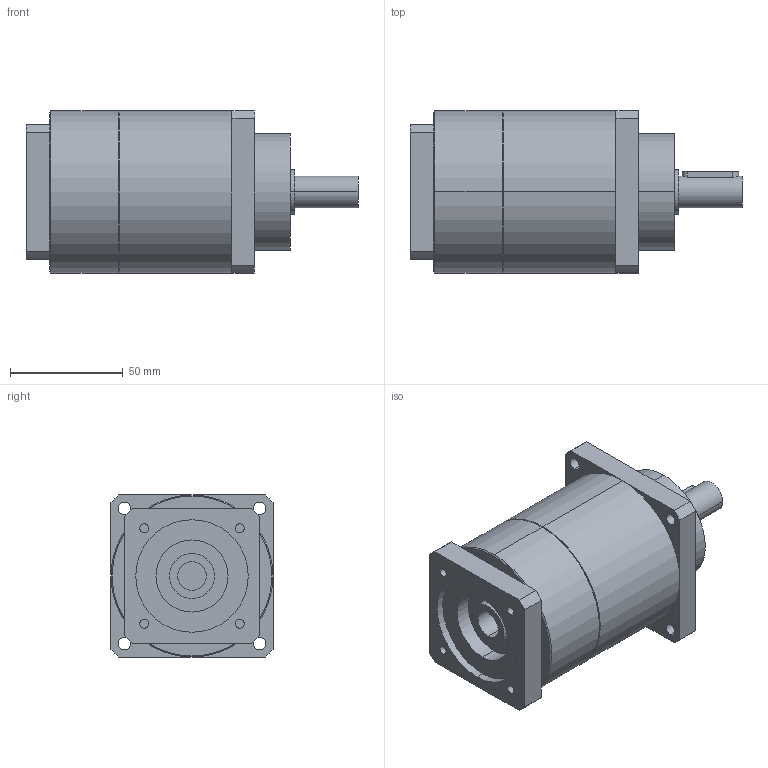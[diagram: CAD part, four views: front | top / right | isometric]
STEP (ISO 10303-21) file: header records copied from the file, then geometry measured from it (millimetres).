
FILE_DESCRIPTION(('CoCreate Modeling STEP Export'),'2;1');
FILE_NAME('GPT75_ig-9-12-16-20-25-28-35-40-50-70-100_14_B5T_12.7_P18.stp','2014-08-27T13:35:19',(''),(''),'CoCreate Modeling STEP processor for AP214 (Solid Model)','CoCreate Modeling 16.00C 25-Feb-2009 (C) Parametric Technology GmbH','');
FILE_SCHEMA(('AUTOMOTIVE_DESIGN { 1 0 10303 214 1 1 1 1 }'));
Length unit declared in the file: millimetre
Products named in the file (2): GPT75_ig-9-12-16-20-25-28-35-40-50-70-100_14_B5T_12.7_P18
Assembly tree (1 placements, depth 2):
  GPT75_ig-9-12-16-20-25-28-35-40-50-70-100_14_B5T_12.7_P18
    GPT75_ig-9-12-16-20-25-28-35-40-50-70-100_14_B5T_12.7_P18
Bounding box: 147.5 x 72 x 72 mm (x, y, z)
Volume: 440891.3 mm3; surface area: 42399.9 mm2
Topology: 1 solids, 1 shells, 88 faces, 210 edges, 137 vertices
Faces by surface type: cylinder 46, plane 38, cone 4
Entity records: 2592 total; most frequent: CARTESIAN_POINT 732, ORIENTED_EDGE 420, DIRECTION 326, EDGE_CURVE 210, VERTEX_POINT 137, AXIS2_PLACEMENT_3D 119, EDGE_LOOP 109, VECTOR 88
